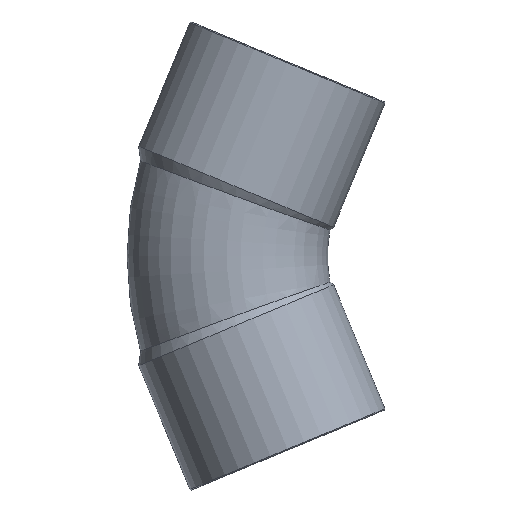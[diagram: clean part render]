
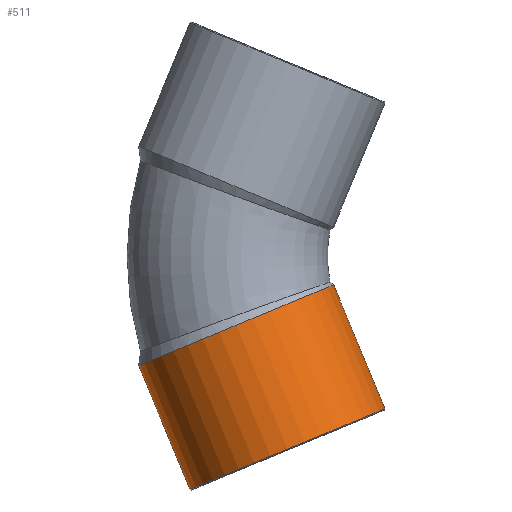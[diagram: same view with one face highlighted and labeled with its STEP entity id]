
A CAD part, front view. The second image highlights one B-rep face of the part: STEP entity #511.
In plain terms, the highlighted cylindrical face has radius 22.1 mm (diameter 44.2 mm), a partial arc.
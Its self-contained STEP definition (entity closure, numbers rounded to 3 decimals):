
#201=CARTESIAN_POINT('',(-64.525,0.,-22.967));
#202=VERTEX_POINT('',#201);
#209=CARTESIAN_POINT('',(-23.69,0.,-6.052));
#210=VERTEX_POINT('',#209);
#211=CARTESIAN_POINT('',(-44.107,0.,-14.51));
#212=DIRECTION('',(-0.383,0.,0.924));
#213=DIRECTION('',(0.924,0.0,0.383));
#214=AXIS2_PLACEMENT_3D('',#211,#212,#213);
#215=CIRCLE('',#214,22.1);
#216=EDGE_CURVE('',#202,#210,#215,.T.);
#480=CARTESIAN_POINT('',(-43.995,0.,-14.782));
#481=DIRECTION('',(0.383,0.,-0.924));
#482=DIRECTION('',(0.924,0.0,0.383));
#483=AXIS2_PLACEMENT_3D('',#480,#481,#482);
#484=CYLINDRICAL_SURFACE('',#483,22.1);
#485=CARTESIAN_POINT('',(-12.938,0.,-32.009));
#486=VERTEX_POINT('',#485);
#487=CARTESIAN_POINT('',(-23.69,0.,-6.052));
#488=DIRECTION('',(0.383,0.,-0.924));
#489=VECTOR('',#488,28.095);
#490=LINE('',#487,#489);
#491=EDGE_CURVE('',#210,#486,#490,.T.);
#492=ORIENTED_EDGE('',*,*,#491,.F.);
#493=ORIENTED_EDGE('',*,*,#216,.F.);
#494=CARTESIAN_POINT('',(-53.774,0.,-48.923));
#495=VERTEX_POINT('',#494);
#496=CARTESIAN_POINT('',(-53.774,0.,-48.923));
#497=DIRECTION('',(-0.383,0.,0.924));
#498=VECTOR('',#497,28.095);
#499=LINE('',#496,#498);
#500=EDGE_CURVE('',#495,#202,#499,.T.);
#501=ORIENTED_EDGE('',*,*,#500,.F.);
#502=CARTESIAN_POINT('',(-33.356,0.,-40.466));
#503=DIRECTION('',(0.383,0.,-0.924));
#504=DIRECTION('',(0.924,0.0,0.383));
#505=AXIS2_PLACEMENT_3D('',#502,#503,#504);
#506=CIRCLE('',#505,22.1);
#507=EDGE_CURVE('',#486,#495,#506,.T.);
#508=ORIENTED_EDGE('',*,*,#507,.F.);
#509=EDGE_LOOP('',(#492,#493,#501,#508));
#510=FACE_OUTER_BOUND('',#509,.T.);
#511=ADVANCED_FACE('',(#510),#484,.T.);
